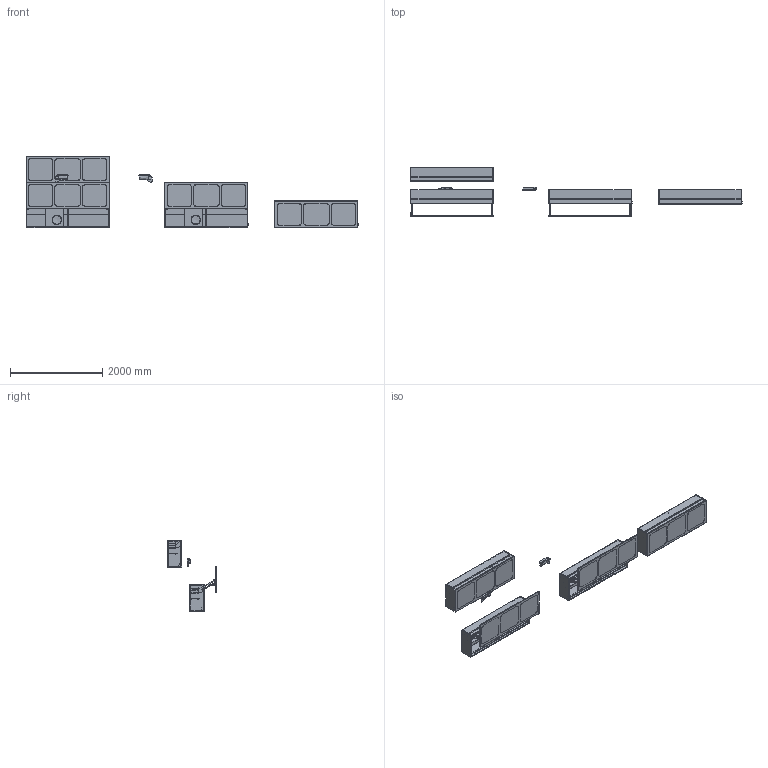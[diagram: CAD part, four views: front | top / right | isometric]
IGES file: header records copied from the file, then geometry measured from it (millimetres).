
Global section: file name: \\Archi-NAS\Comune\X GIOVANNI\SCHEDE PRODOTTO\SPECCHI\MIRR CABINET\MOMA DESIGN_SPECCHI_MIRR CABINET.igs; native system: Rhinoceros ( Jan 17 2018 ); preprocessor: Trout Lake IGES 012 Jan 17 2018; date: 230622.070914; units: millimetre
Bounding box: 7186 x 1057 x 1549 mm (x, y, z)
Surface area: 53895105 mm2 (no closed solid volume)
Topology: 0 solids, 0 shells, 5451 faces, 46340 edges, 46456 vertices
Faces by surface type: bspline 5451
